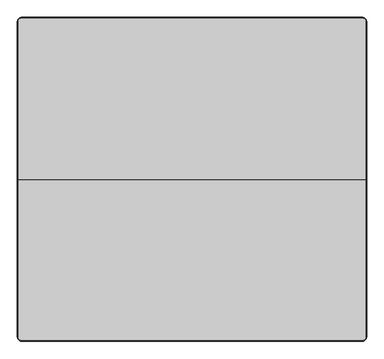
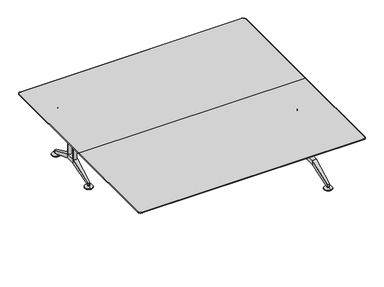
"""IFC4 building model written with IfcOpenShell, lengths in millimetres: furniture geometry, Furniture_Wilkhahn_620-24_Logon Table-Rectangle : Logon 620/23_2800L x 2600W x 730H."""

from ifc_helpers import new_model, si_unit, point, frame, frame_2d, origin, place, context, project, spatial, polyline, circle_curve, ellipse_curve, trimmed, segment, composite_curve, outline, extrude, source, transform, mapped, element, save
from ifc_brep_helpers import plane_surface, cylinder_surface, revolved_surface, advanced_brep


def furniture_32e5604f(model_context):
    return source(origin(), model_context, "Body", "SolidModel", [
        advanced_brep(
        [(1100.0, -199.5732076, 0.0), (1100.0, -249.5732076, 0.0), (1100.0, -149.5732076, 0.0), (1100.0, -249.5732076, 6.0), (1100.0, -149.5732076, 6.0), (1100.0, -212.0488456, 17.0), (1100.0, -187.0975696, 17.0), (1100.0, -212.0488456, 27.0), (1100.0, -187.0975696, 27.0), (1100.0, -199.5732076, 27.0)],
        [
            (0, 1),
            (1, 2, circle_curve(frame((1100.0, -199.5732076, 0.0), z_axis=(0.0, 0.0, -1.0), x_axis=(0.0, -1.0000000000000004, 0.0)), 50.0)),
            (2, 0),
            (2, 1, circle_curve(frame((1100.0, -199.5732076, 0.0), z_axis=(0.0, 0.0, -1.0), x_axis=(0.0, -1.0000000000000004, 0.0)), 50.0)),
            (1, 3),
            (3, 4, circle_curve(frame((1100.0, -199.5732076, 6.0), z_axis=(0.0, 0.0, -1.0), x_axis=(0.0, -1.0000000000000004, 0.0)), 50.0)),
            (4, 2),
            (4, 3, circle_curve(frame((1100.0, -199.5732076, 6.0), z_axis=(0.0, 0.0, -1.0), x_axis=(0.0, -1.0000000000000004, 0.0)), 50.0)),
            (3, 5),
            (5, 6, circle_curve(frame((1100.0, -199.5732076, 17.0), z_axis=(0.0, 0.0, -1.0), x_axis=(0.0, -1.0000000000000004, 0.0)), 12.475638)),
            (6, 4),
            (6, 5, circle_curve(frame((1100.0, -199.5732076, 17.0), z_axis=(0.0, 0.0, -1.0), x_axis=(0.0, -1.0000000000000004, 0.0)), 12.475638)),
            (5, 7),
            (7, 8, circle_curve(frame((1100.0, -199.5732076, 27.0), z_axis=(0.0, 0.0, -1.0), x_axis=(0.0, -1.0000000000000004, 0.0)), 12.475638)),
            (8, 6),
            (8, 7, circle_curve(frame((1100.0, -199.5732076, 27.0), z_axis=(0.0, 0.0, -1.0), x_axis=(0.0, -1.0000000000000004, 0.0)), 12.475638)),
            (7, 9),
            (9, 8),
        ],
        [
            plane_surface(frame((1100.0, -199.5732076, 0.0), z_axis=(0.0, 0.0, -1.0), x_axis=(0.0, -1.0, 0.0))),
            cylinder_surface(frame((1100.0, -199.5732076, 27.0), z_axis=(0.0, 0.0, -1.0), x_axis=(0.0, -1.0000000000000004, 0.0)), 50.0),
            revolved_surface(polyline([(1100.0, -212.0488456, 17.0), (1100.0, -249.5732076, 6.0)]), (1100.0, -199.5732076, 27.0), (0.0, 0.0, -1.0)),
            cylinder_surface(frame((1100.0, -199.5732076, 27.0), z_axis=(0.0, 0.0, -1.0), x_axis=(0.0, -1.0000000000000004, 0.0)), 12.475638),
            plane_surface(frame((1100.0, -199.5732076, 27.0), z_axis=(0.0, 0.0, 1.0), x_axis=(0.0, -1.0, 0.0))),
        ],
        [
            (0, [[1, 2, 3]]),
            (0, [[-3, 4, -1]]),
            (1, [[-2, 5, 6, 7]]),
            (1, [[-4, -7, 8, -5]]),
            (2, [[-6, 9, 10, 11]]),
            (2, [[-8, -11, 12, -9]]),
            (3, [[-10, 13, 14, 15]]),
            (3, [[-12, -15, 16, -13]]),
            (4, [[-14, 17, 18]]),
            (4, [[-16, -18, -17]]),
        ],
    ),
        advanced_brep(
        [(1100.0, 451.4755164, 0.0), (1100.0, 551.4755164, 0.0), (1100.0, 501.4755164, 0.0), (1100.0, 451.4755164, 6.0), (1100.0, 551.4755164, 6.0), (1100.0, 488.9998784, 17.0), (1100.0, 513.9511544, 17.0), (1100.0, 488.9998784, 27.0), (1100.0, 513.9511544, 27.0), (1100.0, 501.4755164, 27.0)],
        [
            (0, 1, circle_curve(frame((1100.0, 501.4755164, 0.0), z_axis=(0.0, 0.0, -1.0), x_axis=(0.0, 1.0000000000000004, 0.0)), 50.0)),
            (1, 2),
            (2, 0),
            (1, 0, circle_curve(frame((1100.0, 501.4755164, 0.0), z_axis=(0.0, 0.0, -1.0), x_axis=(0.0, 1.0000000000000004, 0.0)), 50.0)),
            (3, 4, circle_curve(frame((1100.0, 501.4755164, 6.0), z_axis=(0.0, 0.0, -1.0), x_axis=(0.0, 1.0000000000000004, 0.0)), 50.0)),
            (4, 1),
            (0, 3),
            (4, 3, circle_curve(frame((1100.0, 501.4755164, 6.0), z_axis=(0.0, 0.0, -1.0), x_axis=(0.0, 1.0000000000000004, 0.0)), 50.0)),
            (5, 6, circle_curve(frame((1100.0, 501.4755164, 17.0), z_axis=(0.0, 0.0, -1.0), x_axis=(0.0, 1.0000000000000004, 0.0)), 12.475638)),
            (6, 4),
            (3, 5),
            (6, 5, circle_curve(frame((1100.0, 501.4755164, 17.0), z_axis=(0.0, 0.0, -1.0), x_axis=(0.0, 1.0000000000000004, 0.0)), 12.475638)),
            (7, 8, circle_curve(frame((1100.0, 501.4755164, 27.0), z_axis=(0.0, 0.0, -1.0), x_axis=(0.0, 1.0000000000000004, 0.0)), 12.475638)),
            (8, 6),
            (5, 7),
            (8, 7, circle_curve(frame((1100.0, 501.4755164, 27.0), z_axis=(0.0, 0.0, -1.0), x_axis=(0.0, 1.0000000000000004, 0.0)), 12.475638)),
            (9, 8),
            (7, 9),
        ],
        [
            plane_surface(frame((1100.0, 501.4755164, 0.0), z_axis=(0.0, 0.0, -1.0), x_axis=(0.0, 1.0, 0.0))),
            cylinder_surface(frame((1100.0, 501.4755164, 27.0), z_axis=(0.0, 0.0, 1.0), x_axis=(0.0, 1.0000000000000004, 0.0)), 50.0),
            revolved_surface(polyline([(1100.0, 551.4755164, 6.0), (1100.0, 513.9511544, 17.0)]), (1100.0, 501.4755164, 27.0), (0.0, 0.0, 1.0)),
            cylinder_surface(frame((1100.0, 501.4755164, 27.0), z_axis=(0.0, 0.0, 1.0), x_axis=(0.0, 1.0000000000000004, 0.0)), 12.475638),
            plane_surface(frame((1100.0, 501.4755164, 27.0), z_axis=(0.0, 0.0, 1.0), x_axis=(0.0, 1.0, 0.0))),
        ],
        [
            (0, [[1, 2, 3]]),
            (0, [[4, -3, -2]]),
            (1, [[5, 6, -1, 7]]),
            (1, [[8, -7, -4, -6]]),
            (2, [[9, 10, -5, 11]]),
            (2, [[12, -11, -8, -10]]),
            (3, [[13, 14, -9, 15]]),
            (3, [[16, -15, -12, -14]]),
            (4, [[17, -13, 18]]),
            (4, [[-18, -16, -17]]),
        ],
    ),
        extrude(outline(composite_curve([segment(polyline([(1125.0, 97.9511544), (1151.7160071, -65.1086133)]), True, "CONTINUOUS"), segment(trimmed(circle_curve(frame_2d((1139.8739001, -67.0488456)), 12.0), [point((1151.7160071, -65.1086133))], [point((1139.8739001, -79.0488456))], False, "CARTESIAN"), True, "CONTINUOUS"), segment(polyline([(1139.8739001, -79.0488456), (1060.1260999, -79.0488456)]), True, "CONTINUOUS"), segment(trimmed(circle_curve(frame_2d((1060.1260999, -67.0488456)), 12.0), [point((1060.1260999, -79.0488456))], [point((1048.2839929, -65.1086133))], False, "CARTESIAN"), True, "CONTINUOUS"), segment(polyline([(1048.2839929, -65.1086133), (1075.0, 97.9511544), (1075.0, 203.9511544), (1048.2839929, 367.0109222)]), True, "CONTINUOUS"), segment(trimmed(circle_curve(frame_2d((1060.1260999, 368.9511544)), 12.0), [point((1048.2839929, 367.0109222))], [point((1060.1260999, 380.9511544))], False, "CARTESIAN"), True, "CONTINUOUS"), segment(polyline([(1060.1260999, 380.9511544), (1139.8739001, 380.9511544)]), True, "CONTINUOUS"), segment(trimmed(circle_curve(frame_2d((1139.8739001, 368.9511544)), 12.0), [point((1139.8739001, 380.9511544))], [point((1151.7160071, 367.0109222))], False, "CARTESIAN"), True, "CONTINUOUS"), segment(polyline([(1151.7160071, 367.0109222), (1125.0, 203.9511544), (1125.0, 97.9511544)]), True, "CONTINUOUS")], self_intersect=False)), frame((0.0, 0.0, 675.0), z_axis=(0.0, 0.0, 1.0), x_axis=(1.0, 0.0, 0.0)), (0.0, 0.0, 1.0), 29.0),
        advanced_brep(
        [(1075.0, 203.9511544, 140.0), (1075.0, 97.9511544, 140.0), (1075.0, 97.9511544, 195.0), (1075.0, 203.9511544, 195.0), (1125.0, 203.9511544, 195.0), (1125.0, 97.9511544, 195.0), (1125.0, 97.9511544, 140.0), (1125.0, 203.9511544, 140.0), (1113.4930419, 488.9998784, 27.0), (1086.5069581, 488.9998784, 27.0), (1087.0105795, 501.4755164, 27.0), (1100.0, 513.9511544, 27.0), (1112.9894205, 501.4755164, 27.0), (1112.9894205, 501.4755164, 56.4159205), (1100.0, 513.9511544, 50.6048844), (1087.0105795, 501.4755164, 56.4159205), (1112.9894205, -199.5732076, 56.4159205), (1112.9894205, -199.5732076, 27.0), (1113.4930419, -187.0975696, 27.0), (1087.0105795, -199.5732076, 27.0), (1087.0105795, -199.5732076, 56.4159205), (1086.5069581, -187.0975696, 27.0), (1100.0, -212.0488456, 27.0), (1100.0, -212.0488456, 50.6048844)],
        [
            (0, 1),
            (1, 2),
            (2, 3),
            (3, 0),
            (4, 5),
            (5, 6),
            (6, 7),
            (7, 4),
            (8, 9),
            (9, 10),
            (10, 11, circle_curve(frame((1100.0, 500.9511544, 27.0), z_axis=(0.0, 0.0, -1.0), x_axis=(1.0000000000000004, 0.0, 0.0)), 13.0)),
            (11, 12, circle_curve(frame((1100.0, 500.9511544, 27.0), z_axis=(0.0, 0.0, -1.0), x_axis=(1.0000000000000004, 0.0, 0.0)), 13.0)),
            (12, 8),
            (3, 4),
            (4, 13),
            (13, 14, ellipse_curve(frame((1100.0, 500.9511544, 56.6601634), z_axis=(0.0, 0.42223330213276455, 0.9064871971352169), x_axis=(0.0, 0.9064871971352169, -0.42223330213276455)), 14.341074, 13.0)),
            (14, 15, ellipse_curve(frame((1100.0, 500.9511544, 56.6601634), z_axis=(0.0, 0.42223330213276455, 0.9064871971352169), x_axis=(0.0, 0.9064871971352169, -0.42223330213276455)), 14.341074, 13.0)),
            (15, 3),
            (7, 0),
            (0, 9),
            (8, 7),
            (16, 17),
            (17, 18),
            (18, 6),
            (5, 16),
            (19, 20),
            (20, 2),
            (1, 21),
            (21, 19),
            (2, 5),
            (6, 1),
            (19, 22, circle_curve(frame((1100.0, -199.0488456, 27.0), z_axis=(0.0, 0.0, 1.0), x_axis=(1.0000000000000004, 0.0, 0.0)), 13.0)),
            (22, 17, circle_curve(frame((1100.0, -199.0488456, 27.0), z_axis=(0.0, 0.0, 1.0), x_axis=(1.0000000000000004, 0.0, 0.0)), 13.0)),
            (16, 23, ellipse_curve(frame((1100.0, -199.0488456, 56.6601634), z_axis=(0.0, 0.42223330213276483, -0.906487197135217), x_axis=(0.0, -0.906487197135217, -0.42223330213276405)), 14.341074, 13.0)),
            (23, 20, ellipse_curve(frame((1100.0, -199.0488456, 56.6601634), z_axis=(0.0, 0.42223330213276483, -0.906487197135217), x_axis=(0.0, -0.906487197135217, -0.42223330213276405)), 14.341074, 13.0)),
            (15, 10),
            (13, 12),
            (21, 18),
        ],
        [
            plane_surface(frame((1075.0, 497.2046146, 27.0), z_axis=(-1.0, 0.0, 0.0), x_axis=(0.0, -1.0, 0.0))),
            plane_surface(frame((1125.0, 497.2046146, 27.0), z_axis=(1.0, 0.0, 0.0), x_axis=(0.0, 1.0, 0.0))),
            plane_surface(frame((1125.0, 488.9998784, 27.0), z_axis=(0.0, 0.0, -1.0), x_axis=(-1.0, 0.0, 0.0))),
            plane_surface(frame((1125.0, 513.9511544, 50.6048844), z_axis=(0.0, 0.42223330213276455, 0.9064871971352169), x_axis=(-1.0, 0.0, 0.0))),
            plane_surface(frame((1125.0, 203.9511544, 140.0), z_axis=(0.0, -0.36852267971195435, -0.9296187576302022), x_axis=(-1.0, 0.0, 0.0))),
            plane_surface(frame((1125.0, 97.9511544, 195.0), z_axis=(0.9991861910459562, -0.04033553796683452, 0.0), x_axis=(0.0, 0.0, -1.0))),
            plane_surface(frame((1087.0105795, -199.5732076, 195.0), z_axis=(-0.9991861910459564, -0.0403355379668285, 0.0), x_axis=(0.0, 0.0, -1.0))),
            plane_surface(frame((1125.0, 203.9511544, 195.0), z_axis=(0.0, 0.0, 1.0), x_axis=(-1.0, 0.0, 0.0))),
            plane_surface(frame((1125.0, 97.9511544, 140.0), z_axis=(0.0, 0.0, -1.0), x_axis=(-1.0, 0.0, 0.0))),
            cylinder_surface(frame((1100.0, -199.0488456, 0.0), z_axis=(0.0, 0.0, -1.0), x_axis=(1.0000000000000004, 0.0, 0.0)), 13.0),
            plane_surface(frame((1075.0, 203.9511544, 195.0), z_axis=(-0.9991861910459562, 0.040335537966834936, 0.0), x_axis=(0.0, 0.0, -1.0))),
            cylinder_surface(frame((1100.0, 500.9511544, -14.190167), z_axis=(0.0, 0.0, -1.0), x_axis=(1.0000000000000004, 0.0, 0.0)), 13.0),
            plane_surface(frame((1112.9894205, 501.4755164, 195.0), z_axis=(0.9991861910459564, 0.04033553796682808, 0.0), x_axis=(0.0, 0.0, -1.0))),
            plane_surface(frame((1125.0, 97.9511544, 195.0), z_axis=(0.0, -0.4222333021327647, 0.9064871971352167), x_axis=(-1.0, 0.0, 0.0))),
            plane_surface(frame((1125.0, -212.0488456, 27.0), z_axis=(0.0, 0.0, -1.0), x_axis=(-1.0, 0.0, 0.0))),
            plane_surface(frame((1125.0, -187.0975696, 27.0), z_axis=(0.0, 0.36852267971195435, -0.929618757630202), x_axis=(-1.0, 0.0, 0.0))),
        ],
        [
            (0, [[1, 2, 3, 4]]),
            (1, [[5, 6, 7, 8]]),
            (2, [[9, 10, 11, 12, 13]]),
            (3, [[14, 15, 16, 17, 18]]),
            (4, [[19, 20, -9, 21]]),
            (5, [[22, 23, 24, -6, 25]]),
            (6, [[26, 27, -2, 28, 29]]),
            (7, [[-3, 30, -5, -14]]),
            (8, [[-1, -19, -7, 31]]),
            (9, [[-26, 32, 33, -22, 34, 35]]),
            (10, [[36, -10, -20, -4, -18]]),
            (11, [[-36, -17, -16, 37, -12, -11]]),
            (12, [[-37, -15, -8, -21, -13]]),
            (13, [[-30, -27, -35, -34, -25]]),
            (14, [[38, -23, -33, -32, -29]]),
            (15, [[-31, -24, -38, -28]]),
        ],
    ),
        extrude(outline(composite_curve([segment(trimmed(circle_curve(frame_2d((1100.0, 97.9511544)), 20.0), [point((1080.0, 97.9511544))], [point((1120.0, 97.9511544))], False, "CARTESIAN"), True, "CONTINUOUS"), segment(trimmed(circle_curve(frame_2d((1100.0, 97.9511544)), 20.0), [point((1120.0, 97.9511544))], [point((1080.0, 97.9511544))], False, "CARTESIAN"), True, "CONTINUOUS")], self_intersect=False)), frame((0.0, 0.0, 140.0), z_axis=(0.0, 0.0, 1.0), x_axis=(1.0, 0.0, 0.0)), (0.0, 0.0, 1.0), 535.0),
        extrude(outline(composite_curve([segment(trimmed(circle_curve(frame_2d((1100.0, 203.9511544)), 20.0), [point((1080.0, 203.9511544))], [point((1120.0, 203.9511544))], False, "CARTESIAN"), True, "CONTINUOUS"), segment(trimmed(circle_curve(frame_2d((1100.0, 203.9511544)), 20.0), [point((1120.0, 203.9511544))], [point((1080.0, 203.9511544))], False, "CARTESIAN"), True, "CONTINUOUS")], self_intersect=False)), frame((0.0, 0.0, 140.0), z_axis=(0.0, 0.0, 1.0), x_axis=(1.0, 0.0, 0.0)), (0.0, 0.0, 1.0), 535.0),
        advanced_brep(
        [(-1100.0, -199.5732076, 0.0), (-1100.0, -149.5732076, 0.0), (-1100.0, -249.5732076, 0.0), (-1100.0, -149.5732076, 6.0), (-1100.0, -249.5732076, 6.0), (-1100.0, -187.0975696, 17.0), (-1100.0, -212.0488456, 17.0), (-1100.0, -187.0975696, 27.0), (-1100.0, -212.0488456, 27.0), (-1100.0, -199.5732076, 27.0)],
        [
            (0, 1),
            (1, 2, circle_curve(frame((-1100.0, -199.5732076, 0.0), z_axis=(0.0, 0.0, -1.0), x_axis=(0.0, -1.0000000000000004, 0.0)), 50.0)),
            (2, 0),
            (2, 1, circle_curve(frame((-1100.0, -199.5732076, 0.0), z_axis=(0.0, 0.0, -1.0), x_axis=(0.0, -1.0000000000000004, 0.0)), 50.0)),
            (1, 3),
            (3, 4, circle_curve(frame((-1100.0, -199.5732076, 6.0), z_axis=(0.0, 0.0, -1.0), x_axis=(0.0, -1.0000000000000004, 0.0)), 50.0)),
            (4, 2),
            (4, 3, circle_curve(frame((-1100.0, -199.5732076, 6.0), z_axis=(0.0, 0.0, -1.0), x_axis=(0.0, -1.0000000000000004, 0.0)), 50.0)),
            (3, 5),
            (5, 6, circle_curve(frame((-1100.0, -199.5732076, 17.0), z_axis=(0.0, 0.0, -1.0), x_axis=(0.0, -1.0000000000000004, 0.0)), 12.475638)),
            (6, 4),
            (6, 5, circle_curve(frame((-1100.0, -199.5732076, 17.0), z_axis=(0.0, 0.0, -1.0), x_axis=(0.0, -1.0000000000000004, 0.0)), 12.475638)),
            (5, 7),
            (7, 8, circle_curve(frame((-1100.0, -199.5732076, 27.0), z_axis=(0.0, 0.0, -1.0), x_axis=(0.0, -1.0000000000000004, 0.0)), 12.475638)),
            (8, 6),
            (8, 7, circle_curve(frame((-1100.0, -199.5732076, 27.0), z_axis=(0.0, 0.0, -1.0), x_axis=(0.0, -1.0000000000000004, 0.0)), 12.475638)),
            (7, 9),
            (9, 8),
        ],
        [
            plane_surface(frame((-1100.0, -199.5732076, 0.0), z_axis=(0.0, 0.0, -1.0), x_axis=(0.0, -1.0, 0.0))),
            cylinder_surface(frame((-1100.0, -199.5732076, 27.0), z_axis=(0.0, 0.0, -1.0), x_axis=(0.0, -1.0000000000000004, 0.0)), 50.0),
            revolved_surface(polyline([(-1100.0, -212.0488456, 17.0), (-1100.0, -249.5732076, 6.0)]), (-1100.0, -199.5732076, 27.0), (0.0, 0.0, -1.0)),
            cylinder_surface(frame((-1100.0, -199.5732076, 27.0), z_axis=(0.0, 0.0, -1.0), x_axis=(0.0, -1.0000000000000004, 0.0)), 12.475638),
            plane_surface(frame((-1100.0, -199.5732076, 27.0), z_axis=(0.0, 0.0, 1.0), x_axis=(0.0, -1.0, 0.0))),
        ],
        [
            (0, [[1, 2, 3]]),
            (0, [[-3, 4, -1]]),
            (1, [[5, 6, 7, -2]]),
            (1, [[-7, 8, -5, -4]]),
            (2, [[9, 10, 11, -6]]),
            (2, [[-11, 12, -9, -8]]),
            (3, [[13, 14, 15, -10]]),
            (3, [[-15, 16, -13, -12]]),
            (4, [[17, 18, -14]]),
            (4, [[-18, -17, -16]]),
        ],
    ),
        advanced_brep(
        [(-1100.0, 451.4755164, 0.0), (-1100.0, 501.4755164, 0.0), (-1100.0, 551.4755164, 0.0), (-1100.0, 451.4755164, 6.0), (-1100.0, 551.4755164, 6.0), (-1100.0, 488.9998784, 17.0), (-1100.0, 513.9511544, 17.0), (-1100.0, 488.9998784, 27.0), (-1100.0, 513.9511544, 27.0), (-1100.0, 501.4755164, 27.0)],
        [
            (0, 1),
            (1, 2),
            (2, 0, circle_curve(frame((-1100.0, 501.4755164, 0.0), z_axis=(0.0, 0.0, -1.0), x_axis=(0.0, 1.0000000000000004, 0.0)), 50.0)),
            (0, 2, circle_curve(frame((-1100.0, 501.4755164, 0.0), z_axis=(0.0, 0.0, -1.0), x_axis=(0.0, 1.0000000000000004, 0.0)), 50.0)),
            (3, 0),
            (2, 4),
            (4, 3, circle_curve(frame((-1100.0, 501.4755164, 6.0), z_axis=(0.0, 0.0, -1.0), x_axis=(0.0, 1.0000000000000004, 0.0)), 50.0)),
            (3, 4, circle_curve(frame((-1100.0, 501.4755164, 6.0), z_axis=(0.0, 0.0, -1.0), x_axis=(0.0, 1.0000000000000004, 0.0)), 50.0)),
            (5, 3),
            (4, 6),
            (6, 5, circle_curve(frame((-1100.0, 501.4755164, 17.0), z_axis=(0.0, 0.0, -1.0), x_axis=(0.0, 1.0000000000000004, 0.0)), 12.475638)),
            (5, 6, circle_curve(frame((-1100.0, 501.4755164, 17.0), z_axis=(0.0, 0.0, -1.0), x_axis=(0.0, 1.0000000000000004, 0.0)), 12.475638)),
            (7, 5),
            (6, 8),
            (8, 7, circle_curve(frame((-1100.0, 501.4755164, 27.0), z_axis=(0.0, 0.0, -1.0), x_axis=(0.0, 1.0000000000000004, 0.0)), 12.475638)),
            (7, 8, circle_curve(frame((-1100.0, 501.4755164, 27.0), z_axis=(0.0, 0.0, -1.0), x_axis=(0.0, 1.0000000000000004, 0.0)), 12.475638)),
            (9, 7),
            (8, 9),
        ],
        [
            plane_surface(frame((-1100.0, 501.4755164, 0.0), z_axis=(0.0, 0.0, -1.0), x_axis=(0.0, 1.0, 0.0))),
            cylinder_surface(frame((-1100.0, 501.4755164, 27.0), z_axis=(0.0, 0.0, 1.0), x_axis=(0.0, 1.0000000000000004, 0.0)), 50.0),
            revolved_surface(polyline([(-1100.0, 551.4755164, 6.0), (-1100.0, 513.9511544, 17.0)]), (-1100.0, 501.4755164, 27.0), (0.0, 0.0, 1.0)),
            cylinder_surface(frame((-1100.0, 501.4755164, 27.0), z_axis=(0.0, 0.0, 1.0), x_axis=(0.0, 1.0000000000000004, 0.0)), 12.475638),
            plane_surface(frame((-1100.0, 501.4755164, 27.0), z_axis=(0.0, 0.0, 1.0), x_axis=(0.0, 1.0, 0.0))),
        ],
        [
            (0, [[1, 2, 3]]),
            (0, [[-2, -1, 4]]),
            (1, [[5, -3, 6, 7]]),
            (1, [[-6, -4, -5, 8]]),
            (2, [[9, -7, 10, 11]]),
            (2, [[-10, -8, -9, 12]]),
            (3, [[13, -11, 14, 15]]),
            (3, [[-14, -12, -13, 16]]),
            (4, [[17, -15, 18]]),
            (4, [[-18, -16, -17]]),
        ],
    ),
        extrude(outline(composite_curve([segment(polyline([(-1125.0, 97.9511544), (-1125.0, 203.9511544), (-1151.7160071, 367.0109222)]), True, "CONTINUOUS"), segment(trimmed(circle_curve(frame_2d((-1139.8739001, 368.9511544)), 12.0), [point((-1151.7160071, 367.0109222))], [point((-1139.8739001, 380.9511544))], False, "CARTESIAN"), True, "CONTINUOUS"), segment(polyline([(-1139.8739001, 380.9511544), (-1060.1260999, 380.9511544)]), True, "CONTINUOUS"), segment(trimmed(circle_curve(frame_2d((-1060.1260999, 368.9511544)), 12.0), [point((-1060.1260999, 380.9511544))], [point((-1048.2839929, 367.0109222))], False, "CARTESIAN"), True, "CONTINUOUS"), segment(polyline([(-1048.2839929, 367.0109222), (-1075.0, 203.9511544), (-1075.0, 97.9511544), (-1048.2839929, -65.1086133)]), True, "CONTINUOUS"), segment(trimmed(circle_curve(frame_2d((-1060.1260999, -67.0488456)), 12.0), [point((-1048.2839929, -65.1086133))], [point((-1060.1260999, -79.0488456))], False, "CARTESIAN"), True, "CONTINUOUS"), segment(polyline([(-1060.1260999, -79.0488456), (-1139.8739001, -79.0488456)]), True, "CONTINUOUS"), segment(trimmed(circle_curve(frame_2d((-1139.8739001, -67.0488456)), 12.0), [point((-1139.8739001, -79.0488456))], [point((-1151.7160071, -65.1086133))], False, "CARTESIAN"), True, "CONTINUOUS"), segment(polyline([(-1151.7160071, -65.1086133), (-1125.0, 97.9511544)]), True, "CONTINUOUS")], self_intersect=False)), frame((0.0, 0.0, 675.0), z_axis=(0.0, 0.0, 1.0), x_axis=(1.0, 0.0, 0.0)), (0.0, 0.0, 1.0), 29.0),
        advanced_brep(
        [(-1075.0, 203.9511544, 140.0), (-1075.0, 203.9511544, 195.0), (-1075.0, 97.9511544, 195.0), (-1075.0, 97.9511544, 140.0), (-1125.0, 203.9511544, 195.0), (-1125.0, 203.9511544, 140.0), (-1125.0, 97.9511544, 140.0), (-1125.0, 97.9511544, 195.0), (-1113.4930419, 488.9998784, 27.0), (-1112.9894205, 501.4755164, 27.0), (-1100.0, 513.9511544, 27.0), (-1087.0105795, 501.4755164, 27.0), (-1086.5069581, 488.9998784, 27.0), (-1087.0105795, 501.4755164, 56.4159205), (-1100.0, 513.9511544, 50.6048844), (-1112.9894205, 501.4755164, 56.4159205), (-1112.9894205, -199.5732076, 56.4159205), (-1113.4930419, -187.0975696, 27.0), (-1112.9894205, -199.5732076, 27.0), (-1087.0105795, -199.5732076, 27.0), (-1086.5069581, -187.0975696, 27.0), (-1087.0105795, -199.5732076, 56.4159205), (-1100.0, -212.0488456, 50.6048844), (-1100.0, -212.0488456, 27.0)],
        [
            (0, 1),
            (1, 2),
            (2, 3),
            (3, 0),
            (4, 5),
            (5, 6),
            (6, 7),
            (7, 4),
            (8, 9),
            (9, 10, circle_curve(frame((-1100.0, 500.9511544, 27.0), z_axis=(0.0, 0.0, -1.0), x_axis=(-1.0000000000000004, 0.0, 0.0)), 13.0)),
            (10, 11, circle_curve(frame((-1100.0, 500.9511544, 27.0), z_axis=(0.0, 0.0, -1.0), x_axis=(-1.0000000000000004, 0.0, 0.0)), 13.0)),
            (11, 12),
            (12, 8),
            (1, 13),
            (13, 14, ellipse_curve(frame((-1100.0, 500.9511544, 56.6601634), z_axis=(0.0, 0.42223330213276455, 0.9064871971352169), x_axis=(0.0, 0.9064871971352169, -0.42223330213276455)), 14.341074, 13.0)),
            (14, 15, ellipse_curve(frame((-1100.0, 500.9511544, 56.6601634), z_axis=(0.0, 0.42223330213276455, 0.9064871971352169), x_axis=(0.0, 0.9064871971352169, -0.42223330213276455)), 14.341074, 13.0)),
            (15, 4),
            (4, 1),
            (5, 8),
            (12, 0),
            (0, 5),
            (16, 7),
            (6, 17),
            (17, 18),
            (18, 16),
            (19, 20),
            (20, 3),
            (2, 21),
            (21, 19),
            (7, 2),
            (3, 6),
            (21, 22, ellipse_curve(frame((-1100.0, -199.0488456, 56.6601634), z_axis=(0.0, 0.42223330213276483, -0.906487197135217), x_axis=(0.0, -0.906487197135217, -0.42223330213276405)), 14.341074, 13.0)),
            (22, 16, ellipse_curve(frame((-1100.0, -199.0488456, 56.6601634), z_axis=(0.0, 0.42223330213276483, -0.906487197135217), x_axis=(0.0, -0.906487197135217, -0.42223330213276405)), 14.341074, 13.0)),
            (18, 23, circle_curve(frame((-1100.0, -199.0488456, 27.0), z_axis=(0.0, 0.0, 1.0), x_axis=(-1.0000000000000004, 0.0, 0.0)), 13.0)),
            (23, 19, circle_curve(frame((-1100.0, -199.0488456, 27.0), z_axis=(0.0, 0.0, 1.0), x_axis=(-1.0000000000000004, 0.0, 0.0)), 13.0)),
            (11, 13),
            (9, 15),
            (17, 20),
        ],
        [
            plane_surface(frame((-1075.0, 497.2046146, 27.0), z_axis=(1.0, 0.0, 0.0), x_axis=(0.0, -1.0, 0.0))),
            plane_surface(frame((-1125.0, 497.2046146, 27.0), z_axis=(-1.0, 0.0, 0.0), x_axis=(0.0, 1.0, 0.0))),
            plane_surface(frame((-1125.0, 488.9998784, 27.0), z_axis=(0.0, 0.0, -1.0), x_axis=(1.0, 0.0, 0.0))),
            plane_surface(frame((-1125.0, 513.9511544, 50.6048844), z_axis=(0.0, 0.42223330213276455, 0.9064871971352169), x_axis=(1.0, 0.0, 0.0))),
            plane_surface(frame((-1125.0, 203.9511544, 140.0), z_axis=(0.0, -0.36852267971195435, -0.9296187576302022), x_axis=(1.0, 0.0, 0.0))),
            plane_surface(frame((-1125.0, 97.9511544, 195.0), z_axis=(-0.9991861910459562, -0.04033553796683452, 0.0), x_axis=(0.0, 0.0, -1.0))),
            plane_surface(frame((-1087.0105795, -199.5732076, 195.0), z_axis=(0.9991861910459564, -0.0403355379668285, 0.0), x_axis=(0.0, 0.0, -1.0))),
            plane_surface(frame((-1125.0, 203.9511544, 195.0), z_axis=(0.0, 0.0, 1.0), x_axis=(1.0, 0.0, 0.0))),
            plane_surface(frame((-1125.0, 97.9511544, 140.0), z_axis=(0.0, 0.0, -1.0), x_axis=(1.0, 0.0, 0.0))),
            cylinder_surface(frame((-1100.0, -199.0488456, 0.0), z_axis=(0.0, 0.0, -1.0), x_axis=(-1.0000000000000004, 0.0, 0.0)), 13.0),
            plane_surface(frame((-1075.0, 203.9511544, 195.0), z_axis=(0.9991861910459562, 0.040335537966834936, 0.0), x_axis=(0.0, 0.0, -1.0))),
            cylinder_surface(frame((-1100.0, 500.9511544, -14.190167), z_axis=(0.0, 0.0, -1.0), x_axis=(-1.0000000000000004, 0.0, 0.0)), 13.0),
            plane_surface(frame((-1112.9894205, 501.4755164, 195.0), z_axis=(-0.9991861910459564, 0.04033553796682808, 0.0), x_axis=(0.0, 0.0, -1.0))),
            plane_surface(frame((-1125.0, 97.9511544, 195.0), z_axis=(0.0, -0.4222333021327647, 0.9064871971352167), x_axis=(1.0, 0.0, 0.0))),
            plane_surface(frame((-1125.0, -212.0488456, 27.0), z_axis=(0.0, 0.0, -1.0), x_axis=(1.0, 0.0, 0.0))),
            plane_surface(frame((-1125.0, -187.0975696, 27.0), z_axis=(0.0, 0.36852267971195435, -0.929618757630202), x_axis=(1.0, 0.0, 0.0))),
        ],
        [
            (0, [[1, 2, 3, 4]]),
            (1, [[5, 6, 7, 8]]),
            (2, [[9, 10, 11, 12, 13]]),
            (3, [[14, 15, 16, 17, 18]]),
            (4, [[19, -13, 20, 21]]),
            (5, [[22, -7, 23, 24, 25]]),
            (6, [[26, 27, -3, 28, 29]]),
            (7, [[-18, -8, 30, -2]]),
            (8, [[31, -6, -21, -4]]),
            (9, [[32, 33, -25, 34, 35, -29]]),
            (10, [[-14, -1, -20, -12, 36]]),
            (11, [[-11, -10, 37, -16, -15, -36]]),
            (12, [[-9, -19, -5, -17, -37]]),
            (13, [[-22, -33, -32, -28, -30]]),
            (14, [[-26, -35, -34, -24, 38]]),
            (15, [[-27, -38, -23, -31]]),
        ],
    ),
        extrude(outline(composite_curve([segment(trimmed(circle_curve(frame_2d((-1100.0, 97.9511544)), 20.0), [point((-1080.0, 97.9511544))], [point((-1120.0, 97.9511544))], False, "CARTESIAN"), True, "CONTINUOUS"), segment(trimmed(circle_curve(frame_2d((-1100.0, 97.9511544)), 20.0), [point((-1120.0, 97.9511544))], [point((-1080.0, 97.9511544))], False, "CARTESIAN"), True, "CONTINUOUS")], self_intersect=False)), frame((0.0, 0.0, 140.0), z_axis=(0.0, 0.0, 1.0), x_axis=(1.0, 0.0, 0.0)), (0.0, 0.0, 1.0), 535.0),
        extrude(outline(composite_curve([segment(trimmed(circle_curve(frame_2d((-1100.0, 203.9511544)), 20.0), [point((-1080.0, 203.9511544))], [point((-1120.0, 203.9511544))], False, "CARTESIAN"), True, "CONTINUOUS"), segment(trimmed(circle_curve(frame_2d((-1100.0, 203.9511544)), 20.0), [point((-1120.0, 203.9511544))], [point((-1080.0, 203.9511544))], False, "CARTESIAN"), True, "CONTINUOUS")], self_intersect=False)), frame((0.0, 0.0, 140.0), z_axis=(0.0, 0.0, 1.0), x_axis=(1.0, 0.0, 0.0)), (0.0, 0.0, 1.0), 535.0),
        advanced_brep(
        [(1396.4081843, -499.0488456, 730.0), (1396.4081843, 770.4511544, 730.0), (1369.5, 797.3593387, 730.0), (-1369.5, 797.3593387, 730.0), (-1396.4081843, 770.4511544, 730.0), (-1396.4081843, -499.0488456, 730.0), (1370.6711015, -499.0488456, 703.9999792), (-1370.6711015, -499.0488456, 703.9999792), (-1370.6711015, 770.4511544, 703.9999792), (-1369.5, 771.6222559, 703.9999792), (1369.5, 771.6222559, 703.9999792), (1370.6711015, 770.4511544, 703.9999792), (-1398.4689097, -499.0488456, 723.4642141), (1398.4689097, -499.0488456, 723.4642141), (-1398.4689097, 770.4511544, 723.4642141), (-1369.5, 799.4200641, 723.4642141), (1369.5, 799.4200641, 723.4642141), (1398.4689097, 770.4511544, 723.4642141)],
        [
            (0, 1),
            (1, 2, circle_curve(frame((1369.5, 770.4511544, 730.0), z_axis=(0.0, 0.0, 1.0), x_axis=(0.0, 1.0000000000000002, 0.0)), 26.9081843)),
            (2, 3),
            (3, 4, circle_curve(frame((-1369.5, 770.4511544, 730.0), z_axis=(0.0, 0.0, 1.0), x_axis=(-1.0000000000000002, 0.0, 0.0)), 26.9081843)),
            (4, 5),
            (5, 0),
            (6, 7),
            (7, 8),
            (8, 9, circle_curve(frame((-1369.5, 770.4511544, 703.9999792), z_axis=(0.0, 0.0, -1.0), x_axis=(-1.0000000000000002, 0.0, 0.0)), 1.1711015)),
            (9, 10),
            (10, 11, circle_curve(frame((1369.5, 770.4511544, 703.9999792), z_axis=(0.0, 0.0, -1.0), x_axis=(0.0, 1.0000000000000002, 0.0)), 1.1711015)),
            (11, 6),
            (5, 12, circle_curve(frame((-1396.4081843, -499.0488456, 726.4072349), z_axis=(0.0, -1.0, 0.0), x_axis=(-1.0000000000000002, 0.0, 0.0)), 3.5927651)),
            (12, 7),
            (6, 13),
            (13, 0, circle_curve(frame((1396.4081843, -499.0488456, 726.4072349), z_axis=(0.0, -1.0, 0.0), x_axis=(1.0000000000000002, 0.0, 0.0)), 3.5927651)),
            (12, 14),
            (14, 8),
            (4, 14, circle_curve(frame((-1396.4081843, 770.4511544, 726.4072349), z_axis=(0.0, -1.0, 0.0), x_axis=(-1.0000000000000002, 0.0, 0.0)), 3.5927651)),
            (14, 15, circle_curve(frame((-1369.5, 770.4511544, 723.4642141), z_axis=(0.0, 0.0, -1.0), x_axis=(-1.0000000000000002, 0.0, 0.0)), 28.9689097)),
            (15, 9),
            (3, 15, circle_curve(frame((-1369.5, 797.3593387, 726.4072349), z_axis=(-1.0000000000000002, 0.0, 0.0), x_axis=(0.0, 1.0000000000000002, 0.0)), 3.5927651)),
            (15, 16),
            (16, 10),
            (2, 16, circle_curve(frame((1369.5, 797.3593387, 726.4072349), z_axis=(-1.0, 0.0, 0.0), x_axis=(0.0, 1.0000000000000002, 0.0)), 3.5927651)),
            (16, 17, circle_curve(frame((1369.5, 770.4511544, 723.4642141), z_axis=(0.0, 0.0, -1.0), x_axis=(0.0, 1.0000000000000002, 0.0)), 28.9689097)),
            (17, 11),
            (1, 17, circle_curve(frame((1396.4081843, 770.4511544, 726.4072349), z_axis=(0.0, 1.0000000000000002, 0.0), x_axis=(1.0000000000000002, 0.0, 0.0)), 3.5927651)),
            (17, 13),
        ],
        [
            plane_surface(frame((-1370.6711015, -499.0488456, 730.0), z_axis=(0.0, 0.0, 1.0), x_axis=(0.0, -1.0, 0.0))),
            plane_surface(frame((-1370.6711015, -499.0488456, 703.9999792), z_axis=(0.0, 0.0, -1.0), x_axis=(0.0, 1.0, 0.0))),
            plane_surface(frame((-1370.6711015, -499.0488456, 730.0), z_axis=(0.0, -1.0, 0.0), x_axis=(0.0, 0.0, -1.0))),
            plane_surface(frame((-1398.4689097, -499.0488456, 723.4642141), z_axis=(-0.573576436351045, 0.0, -0.8191520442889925), x_axis=(0.0, 1.0, 0.0))),
            cylinder_surface(frame((-1396.4081843, -499.0488456, 726.4072349), z_axis=(0.0, -1.0000000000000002, 0.0), x_axis=(-1.0000000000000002, 0.0, 0.0)), 3.5927651),
            revolved_surface(polyline([(-1398.4689097, 770.4511544, 723.4642141), (-1370.6711015, 770.4511544, 703.9999792)]), (-1369.5, 770.4511544, 730.0), (0.0, 0.0, -1.0)),
            revolved_surface(trimmed(ellipse_curve(frame((-1396.4081843, 770.4511544, 726.4072349), z_axis=(0.0, -1.0000000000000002, 0.0), x_axis=(-1.0000000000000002, 0.0, 0.0)), 3.5927651, 3.5927651), [point((-1396.4081843, 770.4511544, 730.0))], [point((-1398.4689097, 770.4511544, 723.4642141))], True, "CARTESIAN"), (-1369.5, 770.4511544, 730.0), (0.0, 0.0, -1.0)),
            plane_surface(frame((-1369.5, 799.4200641, 723.4642141), z_axis=(0.0, 0.5735764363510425, -0.8191520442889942), x_axis=(1.0, 0.0, 0.0))),
            cylinder_surface(frame((-1369.5, 797.3593387, 726.4072349), z_axis=(-1.0000000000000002, 0.0, 0.0), x_axis=(0.0, 1.0000000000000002, 0.0)), 3.5927651),
            revolved_surface(polyline([(1369.5, 799.4200641, 723.4642141), (1369.5, 771.6222559, 703.9999792)]), (1369.5, 770.4511544, 730.0), (0.0, 0.0, -1.0)),
            revolved_surface(trimmed(ellipse_curve(frame((1369.5, 797.3593387, 726.4072349), z_axis=(-1.0000000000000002, 0.0, 0.0), x_axis=(0.0, 1.0000000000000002, 0.0)), 3.5927651, 3.5927651), [point((1369.5, 797.3593387, 730.0))], [point((1369.5, 799.4200641, 723.4642141))], True, "CARTESIAN"), (1369.5, 770.4511544, 730.0), (0.0, 0.0, -1.0)),
            plane_surface(frame((1398.4689097, 770.4511544, 723.4642141), z_axis=(0.5735764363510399, 0.0, -0.819152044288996), x_axis=(0.0, -1.0, 0.0))),
            cylinder_surface(frame((1396.4081843, 770.4511544, 726.4072349), z_axis=(0.0, 1.0000000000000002, 0.0), x_axis=(1.0000000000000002, 0.0, 0.0)), 3.5927651),
        ],
        [
            (0, [[1, 2, 3, 4, 5, 6]]),
            (1, [[7, 8, 9, 10, 11, 12]]),
            (2, [[-6, 13, 14, -7, 15, 16]]),
            (3, [[-14, 17, 18, -8]]),
            (4, [[-13, -5, 19, -17]]),
            (5, [[-18, 20, 21, -9]]),
            (6, [[-4, 22, -20, -19]]),
            (7, [[-21, 23, 24, -10]]),
            (8, [[-3, 25, -23, -22]]),
            (9, [[-24, 26, 27, -11]]),
            (10, [[-2, 28, -26, -25]]),
            (11, [[-15, -12, -27, 29]]),
            (12, [[-16, -29, -28, -1]]),
        ],
    ),
        advanced_brep(
        [(-1398.4689097, -499.0488456, 723.4642141), (-1370.6711015, -499.0488456, 703.9999792), (-1370.6711015, -1768.5488456, 703.9999792), (-1398.4689097, -1768.5488456, 723.4642141), (-1396.4081843, -499.0488456, 730.0), (-1396.4081843, -1768.5488456, 730.0), (-1369.5, -1769.7199471, 703.9999792), (-1369.5, -1797.5177553, 723.4642141), (-1369.5, -1795.4570299, 730.0), (1369.5, -1769.7199471, 703.9999792), (1369.5, -1797.5177553, 723.4642141), (1369.5, -1795.4570299, 730.0), (1370.6711015, -1768.5488456, 703.9999792), (1398.4689097, -1768.5488456, 723.4642141), (1396.4081843, -1768.5488456, 730.0), (1370.6711015, -499.0488456, 703.9999792), (1398.4689097, -499.0488456, 723.4642141), (1396.4081843, -499.0488456, 730.0)],
        [
            (0, 1),
            (1, 2),
            (2, 3),
            (3, 0),
            (4, 0, circle_curve(frame((-1396.4081843, -499.0488456, 726.4072349), z_axis=(0.0, -1.0, 0.0), x_axis=(1.0000000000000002, 0.0, 0.0)), 3.5927651)),
            (3, 5, circle_curve(frame((-1396.4081843, -1768.5488456, 726.4072349), z_axis=(0.0, 1.0, 0.0), x_axis=(1.0000000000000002, 0.0, 0.0)), 3.5927651)),
            (5, 4),
            (2, 6, circle_curve(frame((-1369.5, -1768.5488456, 703.9999792), z_axis=(0.0, 0.0, 1.0), x_axis=(-1.0000000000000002, 0.0, 0.0)), 1.1711015)),
            (6, 7),
            (7, 3, circle_curve(frame((-1369.5, -1768.5488456, 723.4642141), z_axis=(0.0, 0.0, -1.0), x_axis=(-1.0000000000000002, 0.0, 0.0)), 28.9689097)),
            (8, 5, circle_curve(frame((-1369.5, -1768.5488456, 730.0), z_axis=(0.0, 0.0, -1.0), x_axis=(-1.0000000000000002, 0.0, 0.0)), 26.9081843)),
            (7, 8, circle_curve(frame((-1369.5, -1795.4570299, 726.4072349), z_axis=(-1.0000000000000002, 0.0, 0.0), x_axis=(0.0, 1.0000000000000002, 0.0)), 3.5927651)),
            (6, 9),
            (9, 10),
            (10, 7),
            (11, 8),
            (10, 11, circle_curve(frame((1369.5, -1795.4570299, 726.4072349), z_axis=(-1.0, 0.0, 0.0), x_axis=(0.0, 1.0000000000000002, 0.0)), 3.5927651)),
            (9, 12, circle_curve(frame((1369.5, -1768.5488456, 703.9999792), z_axis=(0.0, 0.0, 1.0), x_axis=(0.0, -1.0000000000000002, 0.0)), 1.1711015)),
            (12, 13),
            (13, 10, circle_curve(frame((1369.5, -1768.5488456, 723.4642141), z_axis=(0.0, 0.0, -1.0), x_axis=(0.0, -1.0000000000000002, 0.0)), 28.9689097)),
            (14, 11, circle_curve(frame((1369.5, -1768.5488456, 730.0), z_axis=(0.0, 0.0, -1.0), x_axis=(0.0, -1.0000000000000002, 0.0)), 26.9081843)),
            (13, 14, circle_curve(frame((1396.4081843, -1768.5488456, 726.4072349), z_axis=(0.0, -1.0000000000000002, 0.0), x_axis=(-1.0000000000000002, 0.0, 0.0)), 3.5927651)),
            (15, 16),
            (16, 13),
            (12, 15),
            (16, 17, circle_curve(frame((1396.4081843, -499.0488456, 726.4072349), z_axis=(0.0, -1.0, 0.0), x_axis=(-1.0000000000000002, 0.0, 0.0)), 3.5927651)),
            (17, 14),
            (1, 15),
            (17, 4),
        ],
        [
            plane_surface(frame((-1370.6711015, -499.0488456, 703.9999792), z_axis=(-0.5735764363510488, 0.0, -0.8191520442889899), x_axis=(0.0, -1.0, 0.0))),
            cylinder_surface(frame((-1396.4081843, -499.0488456, 726.4072349), z_axis=(0.0, 1.0000000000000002, 0.0), x_axis=(1.0000000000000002, 0.0, 0.0)), 3.5927651),
            revolved_surface(polyline([(-1370.6711015, -1768.5488456, 703.9999792), (-1398.4689097, -1768.5488456, 723.4642141)]), (-1369.5, -1768.5488456, 730.0), (0.0, 0.0, 1.0)),
            revolved_surface(trimmed(ellipse_curve(frame((-1396.4081843, -1768.5488456, 726.4072349), z_axis=(0.0, 1.0000000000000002, 0.0), x_axis=(1.0000000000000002, 0.0, 0.0)), 3.5927651, 3.5927651), [point((-1398.4689097, -1768.5488456, 723.4642141))], [point((-1396.4081843, -1768.5488456, 730.0))], True, "CARTESIAN"), (-1369.5, -1768.5488456, 730.0), (0.0, 0.0, 1.0)),
            plane_surface(frame((-1369.5, -1769.7199471, 703.9999792), z_axis=(0.0, -0.5735764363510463, -0.8191520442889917), x_axis=(1.0, 0.0, 0.0))),
            cylinder_surface(frame((-1369.5, -1795.4570299, 726.4072349), z_axis=(-1.0000000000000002, 0.0, 0.0), x_axis=(0.0, 1.0000000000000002, 0.0)), 3.5927651),
            revolved_surface(polyline([(1369.5, -1769.7199471, 703.9999792), (1369.5, -1797.5177553, 723.4642141)]), (1369.5, -1768.5488456, 730.0), (0.0, 0.0, 1.0)),
            revolved_surface(trimmed(ellipse_curve(frame((1369.5, -1795.4570299, 726.4072349), z_axis=(-1.0000000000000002, 0.0, 0.0), x_axis=(0.0, 1.0000000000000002, 0.0)), 3.5927651, 3.5927651), [point((1369.5, -1797.5177553, 723.4642141))], [point((1369.5, -1795.4570299, 730.0))], True, "CARTESIAN"), (1369.5, -1768.5488456, 730.0), (0.0, 0.0, 1.0)),
            plane_surface(frame((1370.6711015, -1768.5488456, 703.9999792), z_axis=(0.5735764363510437, 0.0, -0.8191520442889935), x_axis=(0.0, 1.0, 0.0))),
            cylinder_surface(frame((1396.4081843, -1768.5488456, 726.4072349), z_axis=(0.0, -1.0000000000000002, 0.0), x_axis=(-1.0000000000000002, 0.0, 0.0)), 3.5927651),
            plane_surface(frame((-1370.6711015, -1768.5488456, 703.9999792), z_axis=(0.0, 0.0, -1.0), x_axis=(0.0, 1.0, 0.0))),
            plane_surface(frame((-1370.6711015, -1768.5488456, 730.0), z_axis=(0.0, 0.0, 1.0), x_axis=(0.0, -1.0, 0.0))),
            plane_surface(frame((1370.6711015, -499.0488456, 730.0), z_axis=(0.0, 1.0, 0.0), x_axis=(0.0, 0.0, -1.0))),
        ],
        [
            (0, [[1, 2, 3, 4]]),
            (1, [[5, -4, 6, 7]]),
            (2, [[-3, 8, 9, 10]]),
            (3, [[11, -6, -10, 12]]),
            (4, [[-9, 13, 14, 15]]),
            (5, [[16, -12, -15, 17]]),
            (6, [[-14, 18, 19, 20]]),
            (7, [[21, -17, -20, 22]]),
            (8, [[23, 24, -19, 25]]),
            (9, [[26, 27, -22, -24]]),
            (10, [[28, -25, -18, -13, -8, -2]]),
            (11, [[-7, -11, -16, -21, -27, 29]]),
            (12, [[-29, -26, -23, -28, -1, -5]]),
        ],
    ),
        advanced_brep(
        [(1100.0, -798.5244836, 0.0), (1100.0, -848.5244836, 0.0), (1100.0, -748.5244836, 0.0), (1100.0, -848.5244836, 6.0), (1100.0, -748.5244836, 6.0), (1100.0, -811.0001216, 17.0), (1100.0, -786.0488456, 17.0), (1100.0, -811.0001216, 27.0), (1100.0, -786.0488456, 27.0), (1100.0, -798.5244836, 27.0)],
        [
            (0, 1),
            (1, 2, circle_curve(frame((1100.0, -798.5244836, 0.0), z_axis=(0.0, 0.0, -1.0), x_axis=(0.0, 1.0000000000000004, 0.0)), 50.0)),
            (2, 0),
            (2, 1, circle_curve(frame((1100.0, -798.5244836, 0.0), z_axis=(0.0, 0.0, -1.0), x_axis=(0.0, 1.0000000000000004, 0.0)), 50.0)),
            (1, 3),
            (3, 4, circle_curve(frame((1100.0, -798.5244836, 6.0), z_axis=(0.0, 0.0, -1.0), x_axis=(0.0, 1.0000000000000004, 0.0)), 50.0)),
            (4, 2),
            (4, 3, circle_curve(frame((1100.0, -798.5244836, 6.0), z_axis=(0.0, 0.0, -1.0), x_axis=(0.0, 1.0000000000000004, 0.0)), 50.0)),
            (3, 5),
            (5, 6, circle_curve(frame((1100.0, -798.5244836, 17.0), z_axis=(0.0, 0.0, -1.0), x_axis=(0.0, 1.0000000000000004, 0.0)), 12.475638)),
            (6, 4),
            (6, 5, circle_curve(frame((1100.0, -798.5244836, 17.0), z_axis=(0.0, 0.0, -1.0), x_axis=(0.0, 1.0000000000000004, 0.0)), 12.475638)),
            (5, 7),
            (7, 8, circle_curve(frame((1100.0, -798.5244836, 27.0), z_axis=(0.0, 0.0, -1.0), x_axis=(0.0, 1.0000000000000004, 0.0)), 12.475638)),
            (8, 6),
            (8, 7, circle_curve(frame((1100.0, -798.5244836, 27.0), z_axis=(0.0, 0.0, -1.0), x_axis=(0.0, 1.0000000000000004, 0.0)), 12.475638)),
            (7, 9),
            (9, 8),
        ],
        [
            plane_surface(frame((1100.0, -798.5244836, 0.0), z_axis=(0.0, 0.0, -1.0), x_axis=(0.0, 1.0, 0.0))),
            cylinder_surface(frame((1100.0, -798.5244836, 27.0), z_axis=(0.0, 0.0, -1.0), x_axis=(0.0, 1.0000000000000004, 0.0)), 50.0),
            revolved_surface(polyline([(1100.0, -786.0488456, 17.0), (1100.0, -748.5244836, 6.0)]), (1100.0, -798.5244836, 27.0), (0.0, 0.0, -1.0)),
            cylinder_surface(frame((1100.0, -798.5244836, 27.0), z_axis=(0.0, 0.0, -1.0), x_axis=(0.0, 1.0000000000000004, 0.0)), 12.475638),
            plane_surface(frame((1100.0, -798.5244836, 27.0), z_axis=(0.0, 0.0, 1.0), x_axis=(0.0, 1.0, 0.0))),
        ],
        [
            (0, [[1, 2, 3]]),
            (0, [[-3, 4, -1]]),
            (1, [[5, 6, 7, -2]]),
            (1, [[-7, 8, -5, -4]]),
            (2, [[9, 10, 11, -6]]),
            (2, [[-11, 12, -9, -8]]),
            (3, [[13, 14, 15, -10]]),
            (3, [[-15, 16, -13, -12]]),
            (4, [[17, 18, -14]]),
            (4, [[-18, -17, -16]]),
        ],
    ),
        advanced_brep(
        [(1100.0, -1449.5732076, 0.0), (1100.0, -1499.5732076, 0.0), (1100.0, -1549.5732076, 0.0), (1100.0, -1449.5732076, 6.0), (1100.0, -1549.5732076, 6.0), (1100.0, -1487.0975696, 17.0), (1100.0, -1512.0488456, 17.0), (1100.0, -1487.0975696, 27.0), (1100.0, -1512.0488456, 27.0), (1100.0, -1499.5732076, 27.0)],
        [
            (0, 1),
            (1, 2),
            (2, 0, circle_curve(frame((1100.0, -1499.5732076, 0.0), z_axis=(0.0, 0.0, -1.0), x_axis=(0.0, -1.0000000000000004, 0.0)), 50.0)),
            (0, 2, circle_curve(frame((1100.0, -1499.5732076, 0.0), z_axis=(0.0, 0.0, -1.0), x_axis=(0.0, -1.0000000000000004, 0.0)), 50.0)),
            (3, 0),
            (2, 4),
            (4, 3, circle_curve(frame((1100.0, -1499.5732076, 6.0), z_axis=(0.0, 0.0, -1.0), x_axis=(0.0, -1.0000000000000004, 0.0)), 50.0)),
            (3, 4, circle_curve(frame((1100.0, -1499.5732076, 6.0), z_axis=(0.0, 0.0, -1.0), x_axis=(0.0, -1.0000000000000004, 0.0)), 50.0)),
            (5, 3),
            (4, 6),
            (6, 5, circle_curve(frame((1100.0, -1499.5732076, 17.0), z_axis=(0.0, 0.0, -1.0), x_axis=(0.0, -1.0000000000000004, 0.0)), 12.475638)),
            (5, 6, circle_curve(frame((1100.0, -1499.5732076, 17.0), z_axis=(0.0, 0.0, -1.0), x_axis=(0.0, -1.0000000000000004, 0.0)), 12.475638)),
            (7, 5),
            (6, 8),
            (8, 7, circle_curve(frame((1100.0, -1499.5732076, 27.0), z_axis=(0.0, 0.0, -1.0), x_axis=(0.0, -1.0000000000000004, 0.0)), 12.475638)),
            (7, 8, circle_curve(frame((1100.0, -1499.5732076, 27.0), z_axis=(0.0, 0.0, -1.0), x_axis=(0.0, -1.0000000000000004, 0.0)), 12.475638)),
            (9, 7),
            (8, 9),
        ],
        [
            plane_surface(frame((1100.0, -1499.5732076, 0.0), z_axis=(0.0, 0.0, -1.0), x_axis=(0.0, -1.0, 0.0))),
            cylinder_surface(frame((1100.0, -1499.5732076, 27.0), z_axis=(0.0, 0.0, 1.0), x_axis=(0.0, -1.0000000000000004, 0.0)), 50.0),
            revolved_surface(polyline([(1100.0, -1549.5732076, 6.0), (1100.0, -1512.0488456, 17.0)]), (1100.0, -1499.5732076, 27.0), (0.0, 0.0, 1.0)),
            cylinder_surface(frame((1100.0, -1499.5732076, 27.0), z_axis=(0.0, 0.0, 1.0), x_axis=(0.0, -1.0000000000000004, 0.0)), 12.475638),
            plane_surface(frame((1100.0, -1499.5732076, 27.0), z_axis=(0.0, 0.0, 1.0), x_axis=(0.0, -1.0, 0.0))),
        ],
        [
            (0, [[1, 2, 3]]),
            (0, [[-2, -1, 4]]),
            (1, [[5, -3, 6, 7]]),
            (1, [[-6, -4, -5, 8]]),
            (2, [[9, -7, 10, 11]]),
            (2, [[-10, -8, -9, 12]]),
            (3, [[13, -11, 14, 15]]),
            (3, [[-14, -12, -13, 16]]),
            (4, [[17, -15, 18]]),
            (4, [[-18, -16, -17]]),
        ],
    ),
        extrude(outline(composite_curve([segment(polyline([(1125.0, -1096.0488456), (1125.0, -1202.0488456), (1151.7160071, -1365.1086133)]), True, "CONTINUOUS"), segment(trimmed(circle_curve(frame_2d((1139.8739001, -1367.0488456)), 12.0), [point((1151.7160071, -1365.1086133))], [point((1139.8739001, -1379.0488456))], False, "CARTESIAN"), True, "CONTINUOUS"), segment(polyline([(1139.8739001, -1379.0488456), (1060.1260999, -1379.0488456)]), True, "CONTINUOUS"), segment(trimmed(circle_curve(frame_2d((1060.1260999, -1367.0488456)), 12.0), [point((1060.1260999, -1379.0488456))], [point((1048.2839929, -1365.1086133))], False, "CARTESIAN"), True, "CONTINUOUS"), segment(polyline([(1048.2839929, -1365.1086133), (1075.0, -1202.0488456), (1075.0, -1096.0488456), (1048.2839929, -932.9890778)]), True, "CONTINUOUS"), segment(trimmed(circle_curve(frame_2d((1060.1260999, -931.0488456)), 12.0), [point((1048.2839929, -932.9890778))], [point((1060.1260999, -919.0488456))], False, "CARTESIAN"), True, "CONTINUOUS"), segment(polyline([(1060.1260999, -919.0488456), (1139.8739001, -919.0488456)]), True, "CONTINUOUS"), segment(trimmed(circle_curve(frame_2d((1139.8739001, -931.0488456)), 12.0), [point((1139.8739001, -919.0488456))], [point((1151.7160071, -932.9890778))], False, "CARTESIAN"), True, "CONTINUOUS"), segment(polyline([(1151.7160071, -932.9890778), (1125.0, -1096.0488456)]), True, "CONTINUOUS")], self_intersect=False)), frame((0.0, 0.0, 675.0), z_axis=(0.0, 0.0, 1.0), x_axis=(1.0, 0.0, 0.0)), (0.0, 0.0, 1.0), 29.0),
        advanced_brep(
        [(1075.0, -1202.0488456, 140.0), (1075.0, -1202.0488456, 195.0), (1075.0, -1096.0488456, 195.0), (1075.0, -1096.0488456, 140.0), (1125.0, -1202.0488456, 195.0), (1125.0, -1202.0488456, 140.0), (1125.0, -1096.0488456, 140.0), (1125.0, -1096.0488456, 195.0), (1113.4930419, -1487.0975696, 27.0), (1112.9894205, -1499.5732076, 27.0), (1100.0, -1512.0488456, 27.0), (1087.0105795, -1499.5732076, 27.0), (1086.5069581, -1487.0975696, 27.0), (1087.0105795, -1499.5732076, 56.4159205), (1100.0, -1512.0488456, 50.6048844), (1112.9894205, -1499.5732076, 56.4159205), (1112.9894205, -798.5244836, 56.4159205), (1113.4930419, -811.0001216, 27.0), (1112.9894205, -798.5244836, 27.0), (1087.0105795, -798.5244836, 27.0), (1086.5069581, -811.0001216, 27.0), (1087.0105795, -798.5244836, 56.4159205), (1100.0, -786.0488456, 50.6048844), (1100.0, -786.0488456, 27.0)],
        [
            (0, 1),
            (1, 2),
            (2, 3),
            (3, 0),
            (4, 5),
            (5, 6),
            (6, 7),
            (7, 4),
            (8, 9),
            (9, 10, circle_curve(frame((1100.0, -1499.0488456, 27.0), z_axis=(0.0, 0.0, -1.0), x_axis=(1.0000000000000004, 0.0, 0.0)), 13.0)),
            (10, 11, circle_curve(frame((1100.0, -1499.0488456, 27.0), z_axis=(0.0, 0.0, -1.0), x_axis=(1.0000000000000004, 0.0, 0.0)), 13.0)),
            (11, 12),
            (12, 8),
            (1, 13),
            (13, 14, ellipse_curve(frame((1100.0, -1499.0488456, 56.6601634), z_axis=(0.0, -0.42223330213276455, 0.9064871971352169), x_axis=(0.0, -0.9064871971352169, -0.42223330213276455)), 14.341074, 13.0)),
            (14, 15, ellipse_curve(frame((1100.0, -1499.0488456, 56.6601634), z_axis=(0.0, -0.42223330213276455, 0.9064871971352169), x_axis=(0.0, -0.9064871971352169, -0.42223330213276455)), 14.341074, 13.0)),
            (15, 4),
            (4, 1),
            (5, 8),
            (12, 0),
            (0, 5),
            (16, 7),
            (6, 17),
            (17, 18),
            (18, 16),
            (19, 20),
            (20, 3),
            (2, 21),
            (21, 19),
            (7, 2),
            (3, 6),
            (21, 22, ellipse_curve(frame((1100.0, -799.0488456, 56.6601634), z_axis=(0.0, -0.42223330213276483, -0.906487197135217), x_axis=(0.0, 0.906487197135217, -0.42223330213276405)), 14.341074, 13.0)),
            (22, 16, ellipse_curve(frame((1100.0, -799.0488456, 56.6601634), z_axis=(0.0, -0.42223330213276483, -0.906487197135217), x_axis=(0.0, 0.906487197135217, -0.42223330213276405)), 14.341074, 13.0)),
            (18, 23, circle_curve(frame((1100.0, -799.0488456, 27.0), z_axis=(0.0, 0.0, 1.0), x_axis=(1.0000000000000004, 0.0, 0.0)), 13.0)),
            (23, 19, circle_curve(frame((1100.0, -799.0488456, 27.0), z_axis=(0.0, 0.0, 1.0), x_axis=(1.0000000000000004, 0.0, 0.0)), 13.0)),
            (11, 13),
            (9, 15),
            (17, 20),
        ],
        [
            plane_surface(frame((1075.0, -1495.3023057, 27.0), z_axis=(-1.0, 0.0, 0.0), x_axis=(0.0, 1.0, 0.0))),
            plane_surface(frame((1125.0, -1495.3023057, 27.0), z_axis=(1.0, 0.0, 0.0), x_axis=(0.0, -1.0, 0.0))),
            plane_surface(frame((1125.0, -1487.0975696, 27.0), z_axis=(0.0, 0.0, -1.0), x_axis=(-1.0, 0.0, 0.0))),
            plane_surface(frame((1125.0, -1512.0488456, 50.6048844), z_axis=(0.0, -0.42223330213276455, 0.9064871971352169), x_axis=(-1.0, 0.0, 0.0))),
            plane_surface(frame((1125.0, -1202.0488456, 140.0), z_axis=(0.0, 0.36852267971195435, -0.9296187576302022), x_axis=(-1.0, 0.0, 0.0))),
            plane_surface(frame((1125.0, -1096.0488456, 195.0), z_axis=(0.9991861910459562, 0.04033553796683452, 0.0), x_axis=(0.0, 0.0, -1.0))),
            plane_surface(frame((1087.0105795, -798.5244836, 195.0), z_axis=(-0.9991861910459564, 0.0403355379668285, 0.0), x_axis=(0.0, 0.0, -1.0))),
            plane_surface(frame((1125.0, -1202.0488456, 195.0), z_axis=(0.0, 0.0, 1.0), x_axis=(-1.0, 0.0, 0.0))),
            plane_surface(frame((1125.0, -1096.0488456, 140.0), z_axis=(0.0, 0.0, -1.0), x_axis=(-1.0, 0.0, 0.0))),
            cylinder_surface(frame((1100.0, -799.0488456, 0.0), z_axis=(0.0, 0.0, -1.0), x_axis=(1.0000000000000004, 0.0, 0.0)), 13.0),
            plane_surface(frame((1075.0, -1202.0488456, 195.0), z_axis=(-0.9991861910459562, -0.040335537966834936, 0.0), x_axis=(0.0, 0.0, -1.0))),
            cylinder_surface(frame((1100.0, -1499.0488456, -14.190167), z_axis=(0.0, 0.0, -1.0), x_axis=(1.0000000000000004, 0.0, 0.0)), 13.0),
            plane_surface(frame((1112.9894205, -1499.5732076, 195.0), z_axis=(0.9991861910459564, -0.04033553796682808, 0.0), x_axis=(0.0, 0.0, -1.0))),
            plane_surface(frame((1125.0, -1096.0488456, 195.0), z_axis=(0.0, 0.4222333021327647, 0.9064871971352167), x_axis=(-1.0, 0.0, 0.0))),
            plane_surface(frame((1125.0, -786.0488456, 27.0), z_axis=(0.0, 0.0, -1.0), x_axis=(-1.0, 0.0, 0.0))),
            plane_surface(frame((1125.0, -811.0001216, 27.0), z_axis=(0.0, -0.36852267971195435, -0.929618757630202), x_axis=(-1.0, 0.0, 0.0))),
        ],
        [
            (0, [[1, 2, 3, 4]]),
            (1, [[5, 6, 7, 8]]),
            (2, [[9, 10, 11, 12, 13]]),
            (3, [[14, 15, 16, 17, 18]]),
            (4, [[19, -13, 20, 21]]),
            (5, [[22, -7, 23, 24, 25]]),
            (6, [[26, 27, -3, 28, 29]]),
            (7, [[-18, -8, 30, -2]]),
            (8, [[31, -6, -21, -4]]),
            (9, [[32, 33, -25, 34, 35, -29]]),
            (10, [[-14, -1, -20, -12, 36]]),
            (11, [[-11, -10, 37, -16, -15, -36]]),
            (12, [[-9, -19, -5, -17, -37]]),
            (13, [[-22, -33, -32, -28, -30]]),
            (14, [[-26, -35, -34, -24, 38]]),
            (15, [[-27, -38, -23, -31]]),
        ],
    ),
    ])


if __name__ == "__main__":
    model = new_model("IFC4")
    model_context = context("Model", 3, world=origin())
    ifc_project = project(units=[si_unit("LENGTHUNIT", "METRE", prefix="MILLI")], contexts=[model_context])
    site = spatial("IfcSite", under=ifc_project)
    building = spatial("IfcBuilding", under=site)
    placement = place(None, origin())
    furniture_shape = furniture_32e5604f(model_context)
    element("IfcFurniture", 1, ObjectType="Furniture_Wilkhahn_620-24_Logon Table-Rectangle : Logon 620/23_2800L x 2600W x 730H", at=placement, inside=building, context=model_context, shape_type="MappedRepresentation", body=[
        mapped(furniture_shape, transform((0.0, 0.0, 0.0), x_axis=(1.0, 0.0, 0.0), y_axis=(0.0, 1.0, 0.0), z_axis=(0.0, 0.0, 1.0))),
    ])
    save(model, "model.ifc")
